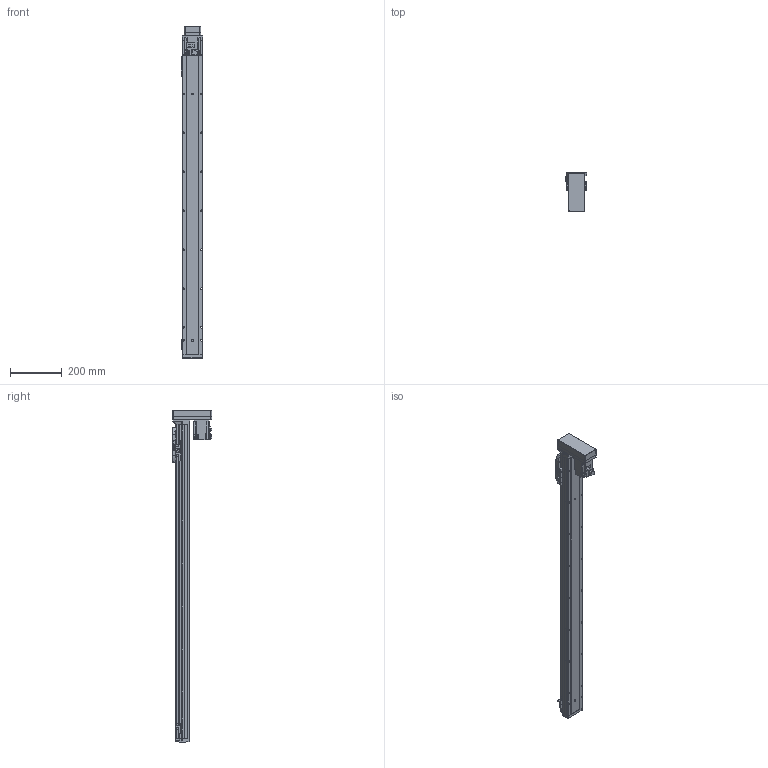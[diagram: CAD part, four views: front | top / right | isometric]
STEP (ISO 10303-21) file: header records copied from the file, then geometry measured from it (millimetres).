
FILE_DESCRIPTION (( 'STEP AP214' ), '1' );
FILE_NAME ('GSH8-1050-BM-M20-1.step', '2025-01-07T06:07:37', ( '' ), ( '' ), 'SwSTEP 2.0', 'SolidWorks 2012', '' );
FILE_SCHEMA (( 'AUTOMOTIVE_DESIGN' ));
Length unit declared in the file: millimetre
Products named in the file (5): GSH8-BL-008; GSH8-BL-011-1050-M20; HG-KR23_200W_Motor; GSH8-1050-BM-M20-1; GSH8-GY-004
Assembly tree (4 placements, depth 2):
  GSH8-1050-BM-M20-1
    GSH8-BL-011-1050-M20
    GSH8-GY-004
    GSH8-BL-008
    HG-KR23_200W_Motor
Bounding box: 84 x 152.3 x 1278.2 mm (x, y, z)
Volume: 2758318.7 mm3; surface area: 733443.6 mm2
Topology: 4 solids, 8 shells, 1178 faces, 3107 edges, 2002 vertices
Faces by surface type: plane 660, cylinder 422, torus 42, cone 26, bspline 24, sphere 4
Entity records: 46517 total; most frequent: CARTESIAN_POINT 10888, DIRECTION 6311, ORIENTED_EDGE 6198, EDGE_CURVE 3099, AXIS2_PLACEMENT_3D 2129, VECTOR 2053, LINE 2053, VERTEX_POINT 1998
